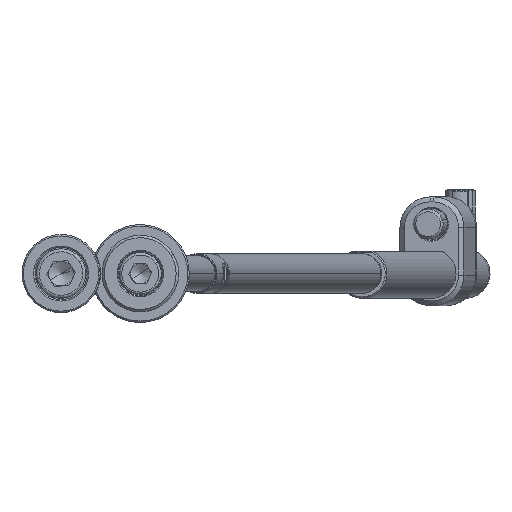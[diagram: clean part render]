
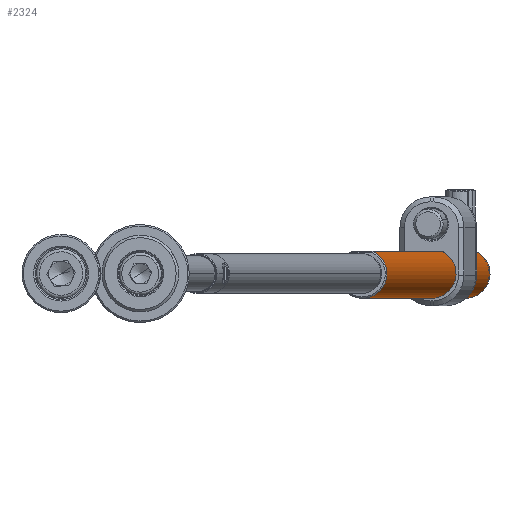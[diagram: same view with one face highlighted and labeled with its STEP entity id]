
A CAD part, front view. The second image highlights one B-rep face of the part: STEP entity #2324.
In plain terms, the highlighted cylindrical face has radius 5 mm (diameter 10 mm), a partial arc.
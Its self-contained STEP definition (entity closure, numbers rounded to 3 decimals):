
#113 = ORIENTED_EDGE ( 'NONE', *, *, #2380, .F. ) ;
#681 = LINE ( 'NONE', #7205, #4722 ) ;
#797 = DIRECTION ( 'NONE',  ( -1., 0., 0. ) ) ;
#1010 = CARTESIAN_POINT ( 'NONE',  ( -5., 0., 0.3 ) ) ;
#1014 = CARTESIAN_POINT ( 'NONE',  ( 4.5, -2.179, 12.062 ) ) ;
#1089 = CARTESIAN_POINT ( 'NONE',  ( 4.108, -2.851, 10.952 ) ) ;
#1247 = EDGE_CURVE ( 'NONE', #4697, #5057, #12537, .T. ) ;
#1309 = AXIS2_PLACEMENT_3D ( 'NONE', #4676, #13509, #3460 ) ;
#1478 = DIRECTION ( 'NONE',  ( 0., 0., 1. ) ) ;
#1846 = VECTOR ( 'NONE', #12783, 1000. ) ;
#1886 = CARTESIAN_POINT ( 'NONE',  ( 4.5, -2.179, 7.938 ) ) ;
#1952 = CARTESIAN_POINT ( 'NONE',  ( 4., -3., 9.809 ) ) ;
#2324 = ADVANCED_FACE ( 'NONE', ( #10932 ), #5172, .T. ) ;
#2380 = EDGE_CURVE ( 'NONE', #5188, #14110, #5269, .T. ) ;
#2977 = CARTESIAN_POINT ( 'NONE',  ( 4.258, -2.623, 8.532 ) ) ;
#3046 = CARTESIAN_POINT ( 'NONE',  ( 4.438, -2.307, 11.926 ) ) ;
#3091 = LINE ( 'NONE', #4008, #1846 ) ;
#3311 = EDGE_CURVE ( 'NONE', #4697, #5188, #3091, .T. ) ;
#3433 = EDGE_CURVE ( 'NONE', #7003, #10749, #12168, .T. ) ;
#3460 = DIRECTION ( 'NONE',  ( 1., 0., 0. ) ) ;
#3909 = DIRECTION ( 'NONE',  ( 0., 0., -1. ) ) ;
#4008 = CARTESIAN_POINT ( 'NONE',  ( 4.5, -2.179, 200. ) ) ;
#4185 = CARTESIAN_POINT ( 'NONE',  ( 4.203, -2.709, 11.303 ) ) ;
#4324 = CARTESIAN_POINT ( 'NONE',  ( 4.014, -2.982, 9.617 ) ) ;
#4590 = ORIENTED_EDGE ( 'NONE', *, *, #3311, .F. ) ;
#4676 = CARTESIAN_POINT ( 'NONE',  ( 0., 0., 199.7 ) ) ;
#4697 = VERTEX_POINT ( 'NONE', #11295 ) ;
#4722 = VECTOR ( 'NONE', #3909, 1000. ) ;
#4824 = AXIS2_PLACEMENT_3D ( 'NONE', #6880, #1478, #5978 ) ;
#5057 = VERTEX_POINT ( 'NONE', #7600 ) ;
#5172 = CYLINDRICAL_SURFACE ( 'NONE', #5636, 5. ) ;
#5188 = VERTEX_POINT ( 'NONE', #7004 ) ;
#5269 = B_SPLINE_CURVE_WITH_KNOTS ( 'NONE', 3,
 ( #1014, #3046, #7552, #10658, #4185, #1089, #9734, #7337, #5460, #1952, #4324, #9667, #12804, #13865, #2977, #11719, #14087, #1886 ),
 .UNSPECIFIED., .F., .F.,
 ( 4, 2, 2, 2, 2, 2, 2, 2, 4 ),
 ( 0., 0.001, 0.001, 0.002, 0.002, 0.003, 0.003, 0.004, 0.005 ),
 .UNSPECIFIED. ) ;
#5460 = CARTESIAN_POINT ( 'NONE',  ( 4., -3., 10.198 ) ) ;
#5476 = VECTOR ( 'NONE', #10416, 1000. ) ;
#5636 = AXIS2_PLACEMENT_3D ( 'NONE', #6305, #11801, #797 ) ;
#5932 = ORIENTED_EDGE ( 'NONE', *, *, #3433, .T. ) ;
#5975 = ORIENTED_EDGE ( 'NONE', *, *, #12406, .T. ) ;
#5978 = DIRECTION ( 'NONE',  ( 1., 0., 0. ) ) ;
#6101 = CARTESIAN_POINT ( 'NONE',  ( 4.5, -2.179, 0.3 ) ) ;
#6305 = CARTESIAN_POINT ( 'NONE',  ( 0., 0., 200. ) ) ;
#6880 = CARTESIAN_POINT ( 'NONE',  ( 0., 0., 0.3 ) ) ;
#7003 = VERTEX_POINT ( 'NONE', #1010 ) ;
#7004 = CARTESIAN_POINT ( 'NONE',  ( 4.5, -2.179, 12.062 ) ) ;
#7205 = CARTESIAN_POINT ( 'NONE',  ( 4.5, -2.179, 200. ) ) ;
#7337 = CARTESIAN_POINT ( 'NONE',  ( 4.015, -2.98, 10.396 ) ) ;
#7552 = CARTESIAN_POINT ( 'NONE',  ( 4.376, -2.421, 11.781 ) ) ;
#7600 = CARTESIAN_POINT ( 'NONE',  ( -5., 0., 199.7 ) ) ;
#8013 = CARTESIAN_POINT ( 'NONE',  ( 4.5, -2.179, 7.938 ) ) ;
#8399 = ORIENTED_EDGE ( 'NONE', *, *, #1247, .T. ) ;
#9419 = LINE ( 'NONE', #9488, #5476 ) ;
#9488 = CARTESIAN_POINT ( 'NONE',  ( -5., 0., 200. ) ) ;
#9667 = CARTESIAN_POINT ( 'NONE',  ( 4.068, -2.908, 9.236 ) ) ;
#9734 = CARTESIAN_POINT ( 'NONE',  ( 4.069, -2.906, 10.771 ) ) ;
#10334 = EDGE_CURVE ( 'NONE', #14110, #10749, #681, .T. ) ;
#10416 = DIRECTION ( 'NONE',  ( 0., 0., -1. ) ) ;
#10658 = CARTESIAN_POINT ( 'NONE',  ( 4.259, -2.621, 11.47 ) ) ;
#10749 = VERTEX_POINT ( 'NONE', #6101 ) ;
#10911 = ORIENTED_EDGE ( 'NONE', *, *, #10334, .F. ) ;
#10932 = FACE_OUTER_BOUND ( 'NONE', #13528, .T. ) ;
#11295 = CARTESIAN_POINT ( 'NONE',  ( 4.5, -2.179, 199.7 ) ) ;
#11719 = CARTESIAN_POINT ( 'NONE',  ( 4.376, -2.422, 8.22 ) ) ;
#11801 = DIRECTION ( 'NONE',  ( 0., 0., -1. ) ) ;
#12168 = CIRCLE ( 'NONE', #4824, 5. ) ;
#12406 = EDGE_CURVE ( 'NONE', #5057, #7003, #9419, .T. ) ;
#12537 = CIRCLE ( 'NONE', #1309, 5. ) ;
#12783 = DIRECTION ( 'NONE',  ( 0., 0., -1. ) ) ;
#12804 = CARTESIAN_POINT ( 'NONE',  ( 4.107, -2.852, 9.051 ) ) ;
#13509 = DIRECTION ( 'NONE',  ( 0., 0., -1. ) ) ;
#13528 = EDGE_LOOP ( 'NONE', ( #8399, #5975, #5932, #10911, #113, #4590 ) ) ;
#13865 = CARTESIAN_POINT ( 'NONE',  ( 4.202, -2.711, 8.701 ) ) ;
#14087 = CARTESIAN_POINT ( 'NONE',  ( 4.438, -2.308, 8.074 ) ) ;
#14110 = VERTEX_POINT ( 'NONE', #8013 ) ;
